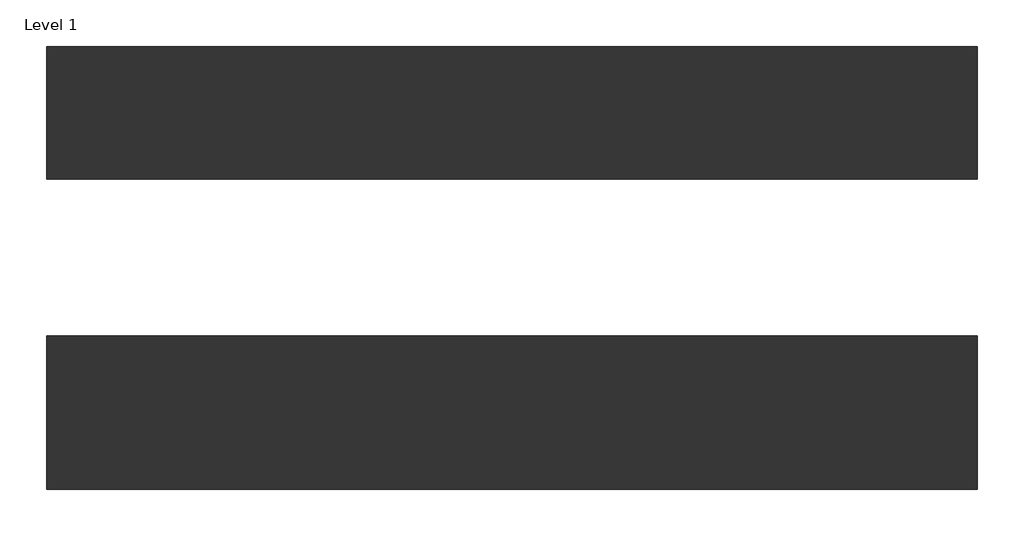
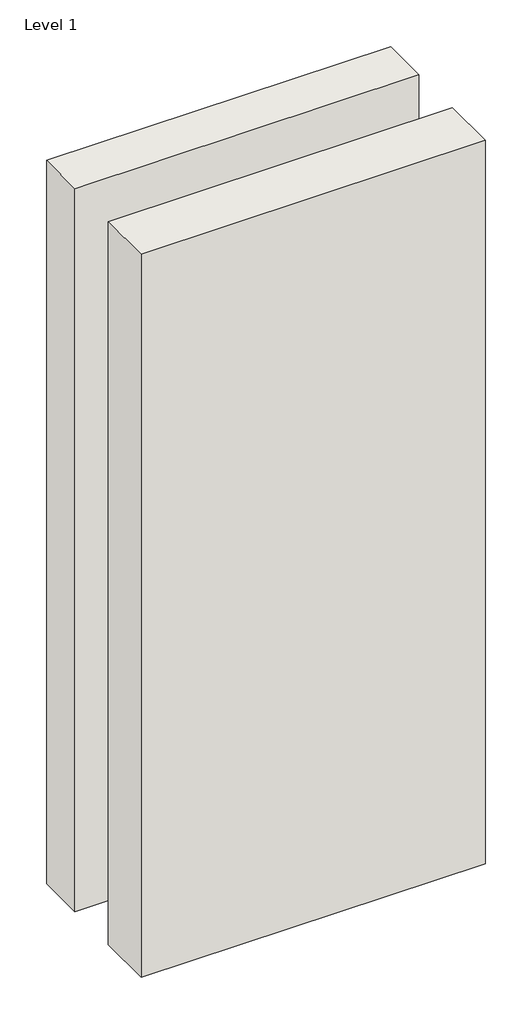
# One storey: 2 walls.
"""IFC4 building model written with IfcOpenShell, lengths in millimetres."""

from ifc_helpers import new_model, si_unit, origin, origin_with_axes, place, context, project, spatial, polyline, outline, extrude, element, save

model = new_model("IFC4")

# Units and contexts
model_context = context("Model", 3, world=origin())
ifc_project = project(units=[si_unit("LENGTHUNIT", "METRE", prefix="MILLI")], contexts=[model_context])

# Site, building, storey
site = spatial("IfcSite", under=ifc_project)
building = spatial("IfcBuilding", under=site)
storey = spatial("IfcBuildingStorey", under=building, Name="Level 1", Elevation=0.0)

# Walls
placement = place(None, origin())
element("IfcWall", 1, ObjectType="Interior-Timber Frame-Party Wall with 25mm Fire Barrier-CSR2410-257mm", at=placement, inside=storey, context=model_context, shape_type="SweptSolid", body=[
    extrude(outline(polyline([(1209.1027791, -2888.0592728), (3009.1027791, -2888.0592728), (3009.1027791, -3145.0592728), (1209.1027791, -3145.0592728), (1209.1027791, -2888.0592728)])), origin_with_axes(), (0.0, 0.0, 1.0), 4000.0),
])
element("IfcWall", 2, ObjectType="Interior-Timber Frame-Party Wall with 25mm Fire Barrier-CSR2410-297mm", at=placement, inside=storey, context=model_context, shape_type="SweptSolid", body=[
    extrude(outline(polyline([(1209.1027791, -3448.0592728), (3009.1027791, -3448.0592728), (3009.1027791, -3745.0592728), (1209.1027791, -3745.0592728), (1209.1027791, -3448.0592728)])), origin_with_axes(), (0.0, 0.0, 1.0), 4000.0),
])

save(model, "model.ifc")
